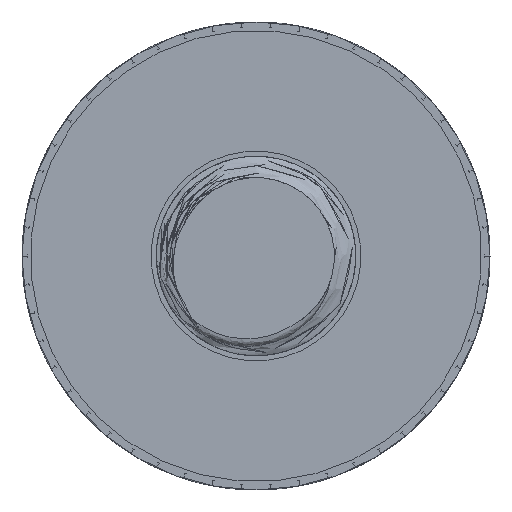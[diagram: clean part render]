
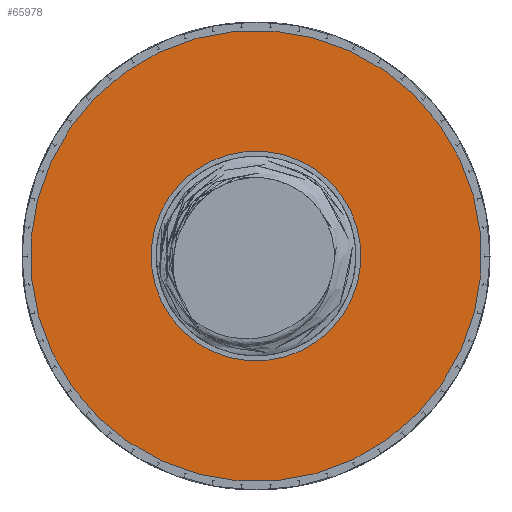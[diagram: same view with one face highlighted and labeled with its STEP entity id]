
A CAD part, front view. The second image highlights one B-rep face of the part: STEP entity #65978.
In plain terms, the highlighted planar face has unit normal (0, -1, 0).
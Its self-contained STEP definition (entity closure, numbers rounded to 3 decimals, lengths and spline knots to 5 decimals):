
#833=FACE_BOUND('',#9260,.T.);
#903=CIRCLE('',#72936,0.1);
#906=CIRCLE('',#72940,0.215);
#907=CIRCLE('',#72941,0.215);
#4737=FACE_OUTER_BOUND('',#9259,.T.);
#9259=EDGE_LOOP('',(#58142,#58143));
#9260=EDGE_LOOP('',(#58144));
#30531=VERTEX_POINT('',#111853);
#30534=VERTEX_POINT('',#111861);
#30535=VERTEX_POINT('',#111863);
#39749=EDGE_CURVE('',#30531,#30531,#903,.T.);
#39753=EDGE_CURVE('',#30534,#30535,#906,.T.);
#39754=EDGE_CURVE('',#30535,#30534,#907,.T.);
#58142=ORIENTED_EDGE('',*,*,#39754,.F.);
#58143=ORIENTED_EDGE('',*,*,#39753,.F.);
#58144=ORIENTED_EDGE('',*,*,#39749,.F.);
#62196=PLANE('',#72943);
#65978=ADVANCED_FACE('',(#4737,#833),#62196,.F.);
#72936=AXIS2_PLACEMENT_3D('',#111855,#92748,#92749);
#72940=AXIS2_PLACEMENT_3D('',#111864,#92757,#92758);
#72941=AXIS2_PLACEMENT_3D('',#111865,#92759,#92760);
#72943=AXIS2_PLACEMENT_3D('',#111867,#92763,#92764);
#92748=DIRECTION('center_axis',(0.,-1.,0.));
#92749=DIRECTION('ref_axis',(1.,0.,0.));
#92757=DIRECTION('center_axis',(0.,1.,0.));
#92758=DIRECTION('ref_axis',(-1.,0.,0.));
#92759=DIRECTION('center_axis',(0.,1.,0.));
#92760=DIRECTION('ref_axis',(-1.,0.,0.));
#92763=DIRECTION('center_axis',(0.,1.,0.));
#92764=DIRECTION('ref_axis',(0.,0.,1.));
#111853=CARTESIAN_POINT('',(-0.1,0.,0.));
#111855=CARTESIAN_POINT('Origin',(0.,0.,0.));
#111861=CARTESIAN_POINT('',(0.215,0.,0.));
#111863=CARTESIAN_POINT('',(-0.215,0.,0.));
#111864=CARTESIAN_POINT('Origin',(0.,0.,0.));
#111865=CARTESIAN_POINT('Origin',(0.,0.,0.));
#111867=CARTESIAN_POINT('Origin',(0.,0.,0.));
